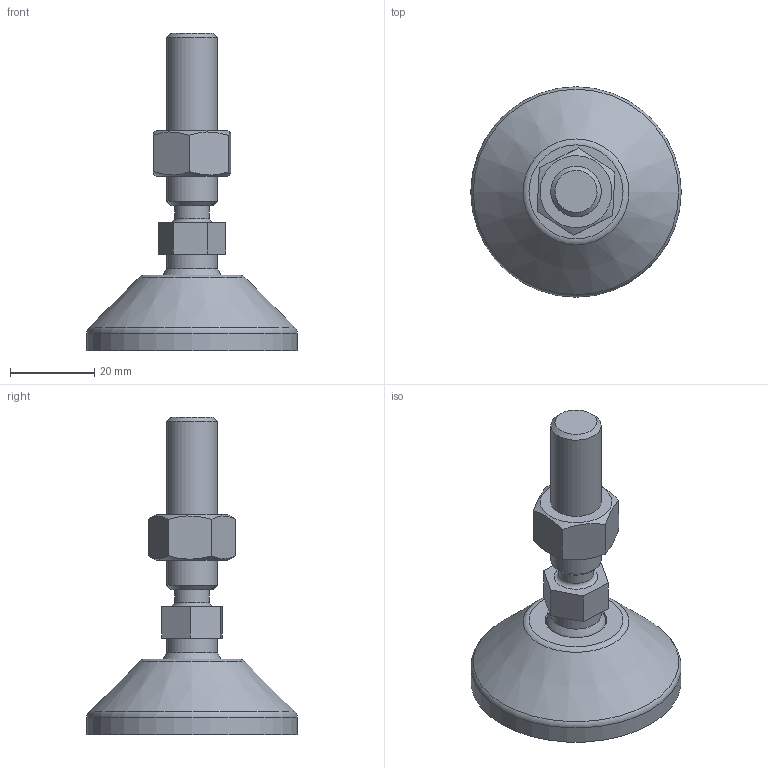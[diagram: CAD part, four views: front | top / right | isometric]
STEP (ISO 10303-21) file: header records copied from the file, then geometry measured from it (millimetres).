
FILE_DESCRIPTION(('STEP AP203'), '1');
FILE_NAME('栖闉罻', '', ('UNSPECIFIED'), ('UNSPECIFIED'), 'C3D Converter', 'C3D Toolkit', '');
FILE_SCHEMA(('CONFIG_CONTROL_DESIGN'));
Length unit declared in the file: millimetre
Products named in the file (4): A00015.1050; A00020.112045
Assembly tree (3 placements, depth 3):
  (unnamed)
    A00015.1050
    A00020.112045
      (unnamed)
Bounding box: 50 x 50 x 75.5 mm (x, y, z)
Volume: 25496 mm3; surface area: 12091.4 mm2
Topology: 3 solids, 3 shells, 177 faces, 476 edges, 318 vertices
Faces by surface type: plane 87, cylinder 50, torus 30, cone 8, sphere 2
Full cylindrical faces by diameter (mm): 4 x8, 8.3 x1, 10.647 x1, 12 x2, 14.3 x1, 15 x2, 15.5 x1, 39 x1, 50 x1
Entity records: 8951 total; most frequent: CARTESIAN_POINT 2983, DIRECTION 920, ORIENTED_EDGE 882, EDGE_CURVE 441, AXIS2_PLACEMENT_3D 376, VERTEX_POINT 317, EDGE_LOOP 226, CIRCLE 195
